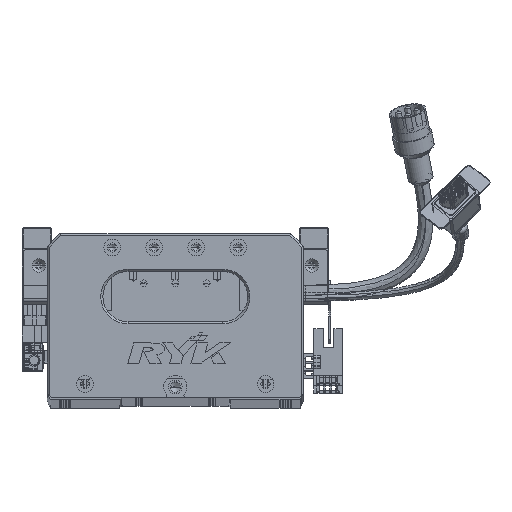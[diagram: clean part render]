
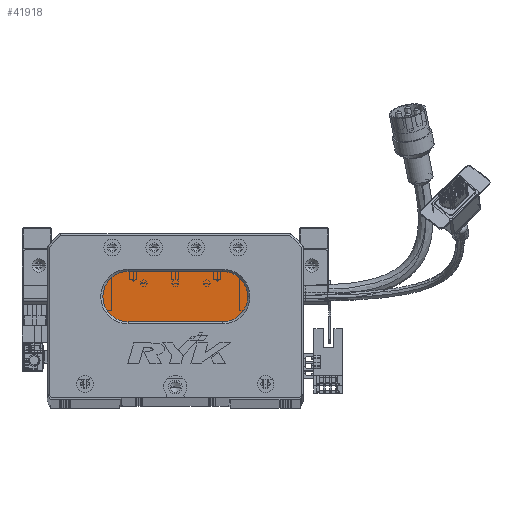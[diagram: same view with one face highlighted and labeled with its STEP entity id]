
A CAD part, top view. The second image highlights one B-rep face of the part: STEP entity #41918.
In plain terms, the highlighted planar face has unit normal (0, 0, 1) as drawn and (0, 0, -1) by its records, which use the part's own axes.
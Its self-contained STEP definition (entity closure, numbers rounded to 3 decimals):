
#5572 = CARTESIAN_POINT ( 'NONE',  ( 83.5, 60., 13. ) ) ;
#6118 = PLANE ( 'NONE',  #81555 ) ;
#8304 = EDGE_CURVE ( 'NONE', #30487, #65000, #74478, .T. ) ;
#9936 = EDGE_CURVE ( 'NONE', #84293, #15447, #39347, .T. ) ;
#10204 = CARTESIAN_POINT ( 'NONE',  ( 83.5, 36., 13. ) ) ;
#15447 = VERTEX_POINT ( 'NONE', #51079 ) ;
#27356 = CARTESIAN_POINT ( 'NONE',  ( 38.5, 60., 13. ) ) ;
#28421 = CARTESIAN_POINT ( 'NONE',  ( 38.5, 36., 13. ) ) ;
#30064 = AXIS2_PLACEMENT_3D ( 'NONE', #56168, #110092, #55774 ) ;
#30487 = VERTEX_POINT ( 'NONE', #5572 ) ;
#39347 = CIRCLE ( 'NONE', #70747, 12. ) ;
#39507 = ORIENTED_EDGE ( 'NONE', *, *, #9936, .T. ) ;
#41918 = ADVANCED_FACE ( 'NONE', ( #75131 ), #6118, .T. ) ;
#44004 = AXIS2_PLACEMENT_3D ( 'NONE', #95112, #49733, #112327 ) ;
#49733 = DIRECTION ( 'NONE',  ( 0., 0., -1. ) ) ;
#50439 = DIRECTION ( 'NONE',  ( 0., 0., -1. ) ) ;
#51079 = CARTESIAN_POINT ( 'NONE',  ( 26.5, 48., 13. ) ) ;
#52871 = EDGE_CURVE ( 'NONE', #15447, #89586, #61493, .T. ) ;
#55003 = DIRECTION ( 'NONE',  ( 1., 0., 0. ) ) ;
#55774 = DIRECTION ( 'NONE',  ( -1., 0., 0. ) ) ;
#56138 = CARTESIAN_POINT ( 'NONE',  ( 38.5, 48., 13. ) ) ;
#56168 = CARTESIAN_POINT ( 'NONE',  ( 83.5, 48., 13. ) ) ;
#56522 = DIRECTION ( 'NONE',  ( -1., 0., 0. ) ) ;
#57732 = EDGE_LOOP ( 'NONE', ( #85321, #101401, #39507, #77321, #101260 ) ) ;
#61493 = CIRCLE ( 'NONE', #44004, 12. ) ;
#65000 = VERTEX_POINT ( 'NONE', #10204 ) ;
#70747 = AXIS2_PLACEMENT_3D ( 'NONE', #56138, #110831, #56522 ) ;
#72565 = CARTESIAN_POINT ( 'NONE',  ( 83.5, 60., 13. ) ) ;
#74478 = CIRCLE ( 'NONE', #30064, 12. ) ;
#75131 = FACE_OUTER_BOUND ( 'NONE', #57732, .T. ) ;
#77321 = ORIENTED_EDGE ( 'NONE', *, *, #52871, .T. ) ;
#81555 = AXIS2_PLACEMENT_3D ( 'NONE', #85651, #50439, #113019 ) ;
#82226 = LINE ( 'NONE', #72565, #103264 ) ;
#84293 = VERTEX_POINT ( 'NONE', #28421 ) ;
#85237 = LINE ( 'NONE', #115111, #115970 ) ;
#85321 = ORIENTED_EDGE ( 'NONE', *, *, #8304, .T. ) ;
#85651 = CARTESIAN_POINT ( 'NONE',  ( 83.5, 48., 13. ) ) ;
#86636 = EDGE_CURVE ( 'NONE', #89586, #30487, #82226, .T. ) ;
#89586 = VERTEX_POINT ( 'NONE', #27356 ) ;
#95112 = CARTESIAN_POINT ( 'NONE',  ( 38.5, 48., 13. ) ) ;
#95592 = DIRECTION ( 'NONE',  ( -1., 0., 0. ) ) ;
#101260 = ORIENTED_EDGE ( 'NONE', *, *, #86636, .T. ) ;
#101401 = ORIENTED_EDGE ( 'NONE', *, *, #102707, .T. ) ;
#102707 = EDGE_CURVE ( 'NONE', #65000, #84293, #85237, .T. ) ;
#103264 = VECTOR ( 'NONE', #55003, 1000. ) ;
#110092 = DIRECTION ( 'NONE',  ( 0., 0., -1. ) ) ;
#110831 = DIRECTION ( 'NONE',  ( 0., 0., -1. ) ) ;
#112327 = DIRECTION ( 'NONE',  ( -1., 0., 0. ) ) ;
#113019 = DIRECTION ( 'NONE',  ( -1., 0., 0. ) ) ;
#115111 = CARTESIAN_POINT ( 'NONE',  ( 83.5, 36., 13. ) ) ;
#115970 = VECTOR ( 'NONE', #95592, 1000. ) ;
